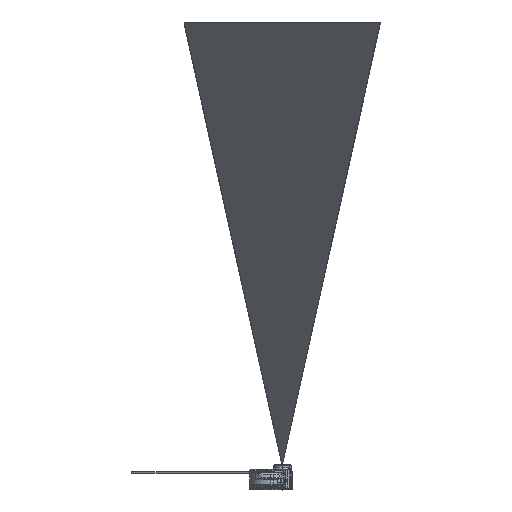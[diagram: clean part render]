
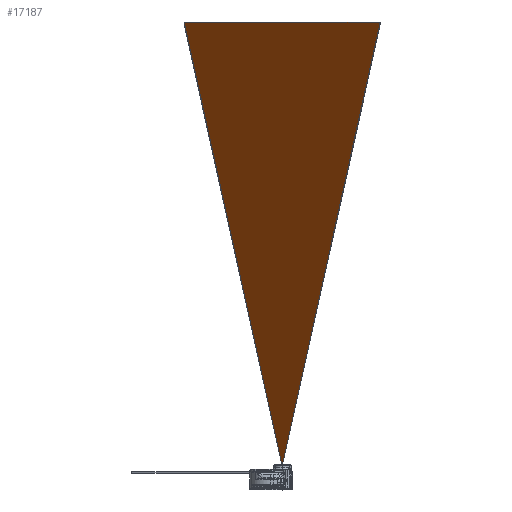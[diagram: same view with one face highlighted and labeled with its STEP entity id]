
A CAD part, top view. The second image highlights one B-rep face of the part: STEP entity #17187.
In plain terms, the highlighted planar face has unit normal (0, -0.883, 0.469).
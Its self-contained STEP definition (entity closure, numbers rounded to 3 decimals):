
#16037=DIRECTION('',(-1.,0.,0.));
#16038=VECTOR('',#16037,0.14);
#16039=CARTESIAN_POINT('',(5.245,7.349,
-0.012));
#16040=LINE('',#16039,#16038);
#16041=DIRECTION('',(-0.103,0.467,0.878));
#16042=VECTOR('',#16041,642.602);
#16043=CARTESIAN_POINT('',(5.105,7.349,
-0.012));
#16044=LINE('',#16043,#16042);
#16045=DIRECTION('',(1.,0.,0.));
#16046=VECTOR('',#16045,133.);
#16047=CARTESIAN_POINT('',(-61.325,307.349,
564.368));
#16048=LINE('',#16047,#16046);
#16053=DIRECTION('',(0.103,0.467,0.878));
#16054=VECTOR('',#16053,642.602);
#16055=CARTESIAN_POINT('',(5.245,7.349,
-0.012));
#16056=LINE('',#16055,#16054);
#16249=CARTESIAN_POINT('',(5.105,7.349,
-0.012));
#16250=VERTEX_POINT('',#16249);
#16251=CARTESIAN_POINT('',(-61.325,307.349,
564.368));
#16252=VERTEX_POINT('',#16251);
#16253=CARTESIAN_POINT('',(5.245,7.349,
-0.012));
#16254=VERTEX_POINT('',#16253);
#16255=CARTESIAN_POINT('',(71.675,307.349,564.368));
#16256=VERTEX_POINT('',#16255);
#17173=CARTESIAN_POINT('',(5.175,157.349,282.178));
#17174=DIRECTION('',(0.,0.883,-0.469));
#17175=DIRECTION('',(-1.,0.,0.));
#17176=AXIS2_PLACEMENT_3D('',#17173,#17174,#17175);
#17177=PLANE('',#17176);
#17179=ORIENTED_EDGE('',*,*,#17178,.F.);
#17181=ORIENTED_EDGE('',*,*,#17180,.T.);
#17182=ORIENTED_EDGE('',*,*,#17163,.T.);
#17184=ORIENTED_EDGE('',*,*,#17183,.T.);
#17185=EDGE_LOOP('',(#17179,#17181,#17182,#17184));
#17186=FACE_OUTER_BOUND('',#17185,.F.);
#17187=ADVANCED_FACE('',(#17186),#17177,.F.);
#17163=EDGE_CURVE('',#16250,#16252,#16044,.T.);
#17178=EDGE_CURVE('',#16254,#16256,#16056,.T.);
#17180=EDGE_CURVE('',#16254,#16250,#16040,.T.);
#17183=EDGE_CURVE('',#16252,#16256,#16048,.T.);
